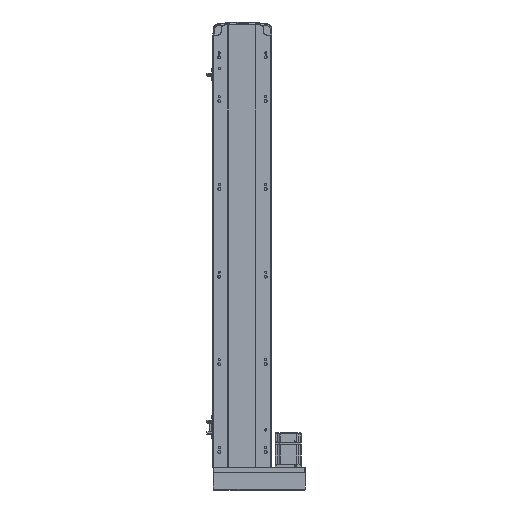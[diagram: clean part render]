
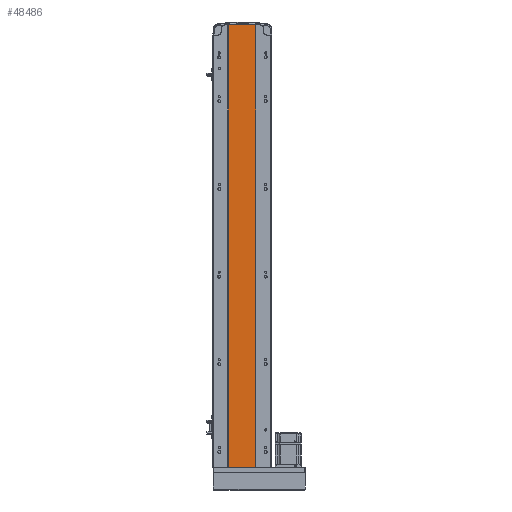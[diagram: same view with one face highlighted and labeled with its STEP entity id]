
A CAD part, front view. The second image highlights one B-rep face of the part: STEP entity #48486.
In plain terms, the highlighted planar face has unit normal (0, -1, 0).
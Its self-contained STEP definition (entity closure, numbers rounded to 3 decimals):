
#1023 = CARTESIAN_POINT ( 'NONE',  ( -32., 1., 0. ) ) ;
#1282 = CARTESIAN_POINT ( 'NONE',  ( 30., 1., 1009. ) ) ;
#1764 = VECTOR ( 'NONE', #33031, 1000. ) ;
#2409 = LINE ( 'NONE', #34135, #1764 ) ;
#6203 = LINE ( 'NONE', #51445, #40463 ) ;
#7639 = ORIENTED_EDGE ( 'NONE', *, *, #53881, .T. ) ;
#8304 = DIRECTION ( 'NONE',  ( 0., 0., -1. ) ) ;
#8712 = CARTESIAN_POINT ( 'NONE',  ( -32., 1., 1009. ) ) ;
#9236 = LINE ( 'NONE', #44077, #29542 ) ;
#12315 = VERTEX_POINT ( 'NONE', #1023 ) ;
#18377 = VERTEX_POINT ( 'NONE', #1282 ) ;
#23476 = DIRECTION ( 'NONE',  ( 0., 1., 0. ) ) ;
#23879 = FACE_OUTER_BOUND ( 'NONE', #54418, .T. ) ;
#23917 = AXIS2_PLACEMENT_3D ( 'NONE', #36556, #23476, #37137 ) ;
#26682 = ORIENTED_EDGE ( 'NONE', *, *, #30818, .F. ) ;
#29542 = VECTOR ( 'NONE', #8304, 1000. ) ;
#30297 = CARTESIAN_POINT ( 'NONE',  ( -32., 1., 1009. ) ) ;
#30818 = EDGE_CURVE ( 'NONE', #18377, #53203, #9236, .T. ) ;
#31141 = VECTOR ( 'NONE', #35166, 1000. ) ;
#33031 = DIRECTION ( 'NONE',  ( 1., 0., 0. ) ) ;
#33259 = EDGE_CURVE ( 'NONE', #41506, #12315, #6203, .T. ) ;
#34135 = CARTESIAN_POINT ( 'NONE',  ( -32., 1., 0. ) ) ;
#34621 = LINE ( 'NONE', #30297, #31141 ) ;
#35017 = DIRECTION ( 'NONE',  ( 0., 0., -1. ) ) ;
#35166 = DIRECTION ( 'NONE',  ( 1., 0., 0. ) ) ;
#35397 = EDGE_CURVE ( 'NONE', #41506, #18377, #34621, .T. ) ;
#36556 = CARTESIAN_POINT ( 'NONE',  ( -32., 1., 1009. ) ) ;
#36934 = PLANE ( 'NONE',  #23917 ) ;
#37137 = DIRECTION ( 'NONE',  ( -1., 0., 0. ) ) ;
#38430 = ORIENTED_EDGE ( 'NONE', *, *, #35397, .F. ) ;
#40463 = VECTOR ( 'NONE', #35017, 1000. ) ;
#41506 = VERTEX_POINT ( 'NONE', #8712 ) ;
#41788 = ORIENTED_EDGE ( 'NONE', *, *, #33259, .T. ) ;
#44077 = CARTESIAN_POINT ( 'NONE',  ( 30., 1., 1009. ) ) ;
#46636 = CARTESIAN_POINT ( 'NONE',  ( 30., 1., 0. ) ) ;
#48486 = ADVANCED_FACE ( 'NONE', ( #23879 ), #36934, .F. ) ;
#51445 = CARTESIAN_POINT ( 'NONE',  ( -32., 1., 1009. ) ) ;
#53203 = VERTEX_POINT ( 'NONE', #46636 ) ;
#53881 = EDGE_CURVE ( 'NONE', #12315, #53203, #2409, .T. ) ;
#54418 = EDGE_LOOP ( 'NONE', ( #7639, #26682, #38430, #41788 ) ) ;
